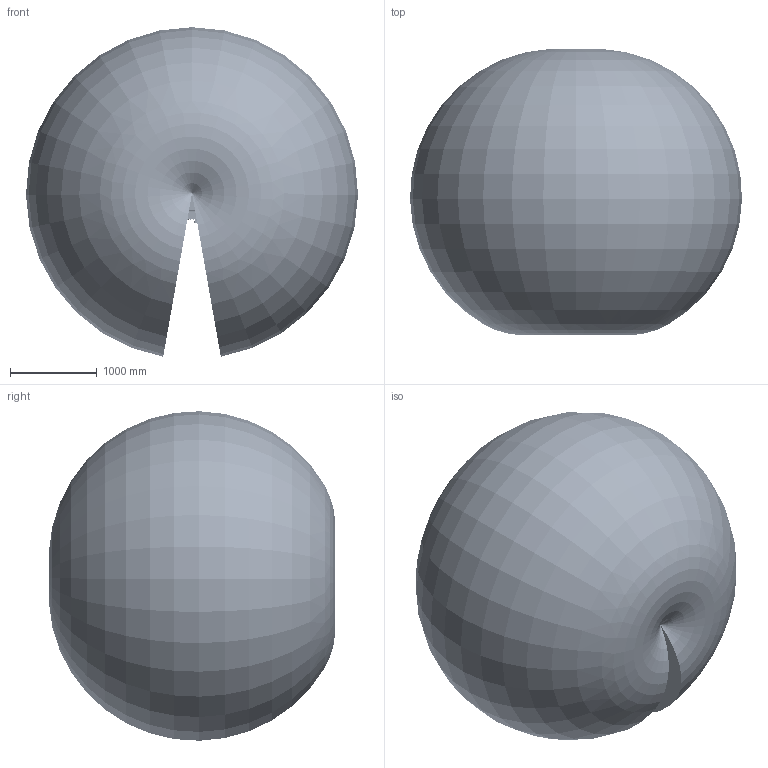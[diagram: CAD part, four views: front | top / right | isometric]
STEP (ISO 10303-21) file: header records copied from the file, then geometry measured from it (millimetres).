
FILE_DESCRIPTION (( 'STEP AP214' ), '1' );
FILE_NAME ('CRP-RH19-25-HP 六轴机器人-简化模型.STEP', '2026-04-14T06:15:39', ( '' ), ( '' ), 'SwSTEP 2.0', 'SolidWorks 2021', '' );
FILE_SCHEMA (( 'AUTOMOTIVE_DESIGN' ));
Length unit declared in the file: millimetre
Products named in the file (11): CR18C0500苤旋郪璃; RA18A0002 殈窒-潠趙 2022.1.3; 轮廓范围^CRP-RH19-25-HP 六轴机器人-简化模型; CR18C0400A 紵窒郪璃; CR18A0300A 湮旋蚾饜极-潠趙 2023.7.29; CR18C0600 勂窒郪璃; RA18A0001 菁釱-潠趙 2022.1.3; 藺傷楊擘; CRP-RH19-25-HP 六轴机器人-简化模型; 盄擢2; 盄擢1
Assembly tree (10 placements, depth 2):
  CRP-RH19-25-HP 六轴机器人-简化模型
    RA18A0001 菁釱-潠趙 2022.1.3
    RA18A0002 殈窒-潠趙 2022.1.3
    CR18A0300A 湮旋蚾饜极-潠趙 2023.7.29
    轮廓范围^CRP-RH19-25-HP 六轴机器人-简化模型
    CR18C0400A 紵窒郪璃
    CR18C0500苤旋郪璃
    CR18C0600 勂窒郪璃
    藺傷楊擘
    盄擢1
    盄擢2
Bounding box: 3833.02 x 3305.1 x 3804.16 mm (x, y, z)
Volume: 24597212304.8 mm3; surface area: 59910683.2 mm2
Topology: 12 solids, 458 shells, 6198 faces, 19473 edges, 13447 vertices
Faces by surface type: plane 1934, bspline 1808, cylinder 1663, torus 460, cone 300, sphere 33
Full cylindrical faces by diameter (mm): 1.8 x32, 2.382 x7, 2.5 x1, 3 x10, 3.242 x42, 3.3 x1, 4 x10, 4.2 x36, 4.386 x1, 4.8 x9, 5 x45, 5.5 x21, 6 x15, 6.7 x3, 6.8 x2, 7 x53, 7.5 x2, 7.7 x2, 8 x20, 8.5 x58, 9 x1, 10 x91, 10.2 x4, 10.7 x1, 11 x17, 11.445 x2, 12 x2, 16 x23, 17 x1, 17.5 x3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
Entity records: 787070 total; most frequent: CARTESIAN_POINT 586227, ORIENTED_EDGE 29676, DIRECTION 25467, EDGE_CURVE 18022, VERTEX_POINT 13089, AXIS2_PLACEMENT_3D 9825, EDGE_LOOP 8033, FACE_OUTER_BOUND 6993
